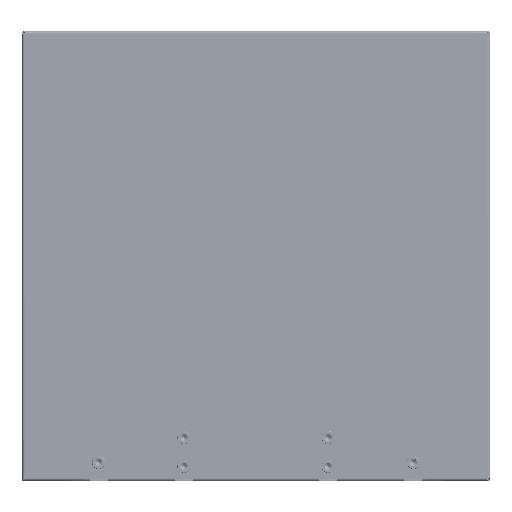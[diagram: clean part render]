
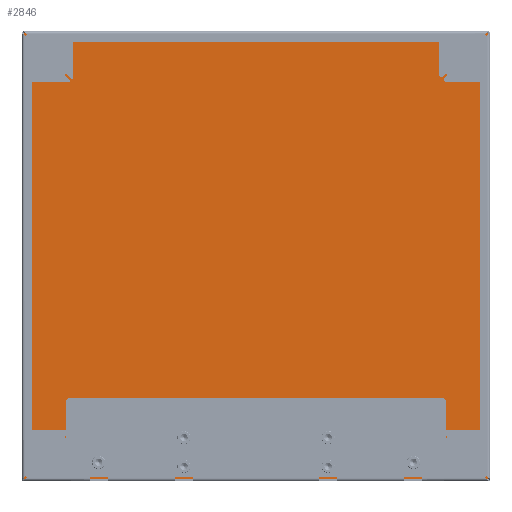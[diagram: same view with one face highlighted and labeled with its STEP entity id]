
A CAD part, front view. The second image highlights one B-rep face of the part: STEP entity #2846.
In plain terms, the highlighted planar face has unit normal (0, -1, 0).
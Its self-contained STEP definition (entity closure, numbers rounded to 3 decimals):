
#5=DIRECTION('',(0.,0.,1.));
#6=VECTOR('',#5,340.);
#7=CARTESIAN_POINT('',(177.,0.,-170.));
#8=LINE('',#7,#6);
#57=CARTESIAN_POINT('',(55.,0.,-160.5));
#58=DIRECTION('',(0.,-1.,0.));
#59=DIRECTION('',(1.,0.,0.));
#60=AXIS2_PLACEMENT_3D('',#57,#58,#59);
#62=CARTESIAN_POINT('',(55.,0.,-160.5));
#63=DIRECTION('',(0.,-1.,0.));
#64=DIRECTION('',(-1.,0.,0.));
#65=AXIS2_PLACEMENT_3D('',#62,#63,#64);
#67=CARTESIAN_POINT('',(120.,0.,-157.5));
#68=DIRECTION('',(0.,-1.,0.));
#69=DIRECTION('',(1.,0.,0.));
#70=AXIS2_PLACEMENT_3D('',#67,#68,#69);
#72=CARTESIAN_POINT('',(120.,0.,-157.5));
#73=DIRECTION('',(0.,-1.,0.));
#74=DIRECTION('',(-1.,0.,0.));
#75=AXIS2_PLACEMENT_3D('',#72,#73,#74);
#77=CARTESIAN_POINT('',(-55.,0.,-160.5));
#78=DIRECTION('',(0.,-1.,0.));
#79=DIRECTION('',(1.,0.,0.));
#80=AXIS2_PLACEMENT_3D('',#77,#78,#79);
#82=CARTESIAN_POINT('',(-55.,0.,-160.5));
#83=DIRECTION('',(0.,-1.,0.));
#84=DIRECTION('',(-1.,0.,0.));
#85=AXIS2_PLACEMENT_3D('',#82,#83,#84);
#87=CARTESIAN_POINT('',(55.,0.,-138.5));
#88=DIRECTION('',(0.,-1.,0.));
#89=DIRECTION('',(1.,0.,0.));
#90=AXIS2_PLACEMENT_3D('',#87,#88,#89);
#92=CARTESIAN_POINT('',(55.,0.,-138.5));
#93=DIRECTION('',(0.,-1.,0.));
#94=DIRECTION('',(-1.,0.,0.));
#95=AXIS2_PLACEMENT_3D('',#92,#93,#94);
#97=CARTESIAN_POINT('',(-55.,0.,-138.5));
#98=DIRECTION('',(0.,-1.,0.));
#99=DIRECTION('',(1.,0.,0.));
#100=AXIS2_PLACEMENT_3D('',#97,#98,#99);
#102=CARTESIAN_POINT('',(-55.,0.,-138.5));
#103=DIRECTION('',(0.,-1.,0.));
#104=DIRECTION('',(-1.,0.,0.));
#105=AXIS2_PLACEMENT_3D('',#102,#103,#104);
#107=CARTESIAN_POINT('',(-120.,0.,-157.5));
#108=DIRECTION('',(0.,-1.,0.));
#109=DIRECTION('',(1.,0.,0.));
#110=AXIS2_PLACEMENT_3D('',#107,#108,#109);
#112=CARTESIAN_POINT('',(-120.,0.,-157.5));
#113=DIRECTION('',(0.,-1.,0.));
#114=DIRECTION('',(-1.,0.,0.));
#115=AXIS2_PLACEMENT_3D('',#112,#113,#114);
#117=DIRECTION('',(0.,0.,-1.));
#118=VECTOR('',#117,340.);
#119=CARTESIAN_POINT('',(-177.,0.,170.));
#120=LINE('',#119,#118);
#181=DIRECTION('',(1.,0.,0.));
#182=VECTOR('',#181,354.);
#183=CARTESIAN_POINT('',(-177.,0.,-170.));
#184=LINE('',#183,#182);
#523=DIRECTION('',(-1.,0.,0.));
#524=VECTOR('',#523,354.);
#525=CARTESIAN_POINT('',(177.,0.,170.));
#526=LINE('',#525,#524);
#2337=CARTESIAN_POINT('',(177.,0.,-170.));
#2338=CARTESIAN_POINT('',(177.,0.,170.));
#2339=VERTEX_POINT('',#2337);
#2340=VERTEX_POINT('',#2338);
#2341=CARTESIAN_POINT('',(-177.,0.,170.));
#2342=CARTESIAN_POINT('',(-177.,0.,-170.));
#2343=VERTEX_POINT('',#2341);
#2344=VERTEX_POINT('',#2342);
#2345=CARTESIAN_POINT('',(58.25,0.,-160.5));
#2346=CARTESIAN_POINT('',(51.75,0.,-160.5));
#2347=VERTEX_POINT('',#2345);
#2348=VERTEX_POINT('',#2346);
#2349=CARTESIAN_POINT('',(123.25,0.,-157.5));
#2350=CARTESIAN_POINT('',(116.75,0.,-157.5));
#2351=VERTEX_POINT('',#2349);
#2352=VERTEX_POINT('',#2350);
#2353=CARTESIAN_POINT('',(-51.75,0.,-160.5));
#2354=CARTESIAN_POINT('',(-58.25,0.,-160.5));
#2355=VERTEX_POINT('',#2353);
#2356=VERTEX_POINT('',#2354);
#2357=CARTESIAN_POINT('',(58.25,0.,-138.5));
#2358=CARTESIAN_POINT('',(51.75,0.,-138.5));
#2359=VERTEX_POINT('',#2357);
#2360=VERTEX_POINT('',#2358);
#2361=CARTESIAN_POINT('',(-51.75,0.,-138.5));
#2362=CARTESIAN_POINT('',(-58.25,0.,-138.5));
#2363=VERTEX_POINT('',#2361);
#2364=VERTEX_POINT('',#2362);
#2365=CARTESIAN_POINT('',(-116.75,0.,-157.5));
#2366=CARTESIAN_POINT('',(-123.25,0.,-157.5));
#2367=VERTEX_POINT('',#2365);
#2368=VERTEX_POINT('',#2366);
#2796=CARTESIAN_POINT('',(0.,0.,0.));
#2797=DIRECTION('',(0.,1.,0.));
#2798=DIRECTION('',(1.,0.,0.));
#2799=AXIS2_PLACEMENT_3D('',#2796,#2797,#2798);
#2800=PLANE('',#2799);
#2802=ORIENTED_EDGE('',*,*,#2801,.F.);
#2804=ORIENTED_EDGE('',*,*,#2803,.F.);
#2805=ORIENTED_EDGE('',*,*,#2786,.F.);
#2807=ORIENTED_EDGE('',*,*,#2806,.F.);
#2808=EDGE_LOOP('',(#2802,#2804,#2805,#2807));
#2809=FACE_OUTER_BOUND('',#2808,.F.);
#2811=ORIENTED_EDGE('',*,*,#2810,.T.);
#2813=ORIENTED_EDGE('',*,*,#2812,.T.);
#2814=EDGE_LOOP('',(#2811,#2813));
#2815=FACE_BOUND('',#2814,.F.);
#2817=ORIENTED_EDGE('',*,*,#2816,.T.);
#2819=ORIENTED_EDGE('',*,*,#2818,.T.);
#2820=EDGE_LOOP('',(#2817,#2819));
#2821=FACE_BOUND('',#2820,.F.);
#2823=ORIENTED_EDGE('',*,*,#2822,.T.);
#2825=ORIENTED_EDGE('',*,*,#2824,.T.);
#2826=EDGE_LOOP('',(#2823,#2825));
#2827=FACE_BOUND('',#2826,.F.);
#2829=ORIENTED_EDGE('',*,*,#2828,.T.);
#2831=ORIENTED_EDGE('',*,*,#2830,.T.);
#2832=EDGE_LOOP('',(#2829,#2831));
#2833=FACE_BOUND('',#2832,.F.);
#2835=ORIENTED_EDGE('',*,*,#2834,.T.);
#2837=ORIENTED_EDGE('',*,*,#2836,.T.);
#2838=EDGE_LOOP('',(#2835,#2837));
#2839=FACE_BOUND('',#2838,.F.);
#2841=ORIENTED_EDGE('',*,*,#2840,.T.);
#2843=ORIENTED_EDGE('',*,*,#2842,.T.);
#2844=EDGE_LOOP('',(#2841,#2843));
#2845=FACE_BOUND('',#2844,.F.);
#2846=ADVANCED_FACE('',(#2809,#2815,#2821,#2827,#2833,#2839,#2845),#2800,.F.);
#61=CIRCLE('',#60,3.25);
#66=CIRCLE('',#65,3.25);
#71=CIRCLE('',#70,3.25);
#76=CIRCLE('',#75,3.25);
#81=CIRCLE('',#80,3.25);
#86=CIRCLE('',#85,3.25);
#91=CIRCLE('',#90,3.25);
#96=CIRCLE('',#95,3.25);
#101=CIRCLE('',#100,3.25);
#106=CIRCLE('',#105,3.25);
#111=CIRCLE('',#110,3.25);
#116=CIRCLE('',#115,3.25);
#2786=EDGE_CURVE('',#2339,#2340,#8,.T.);
#2801=EDGE_CURVE('',#2343,#2344,#120,.T.);
#2803=EDGE_CURVE('',#2340,#2343,#526,.T.);
#2806=EDGE_CURVE('',#2344,#2339,#184,.T.);
#2810=EDGE_CURVE('',#2347,#2348,#61,.T.);
#2812=EDGE_CURVE('',#2348,#2347,#66,.T.);
#2816=EDGE_CURVE('',#2351,#2352,#71,.T.);
#2818=EDGE_CURVE('',#2352,#2351,#76,.T.);
#2822=EDGE_CURVE('',#2355,#2356,#81,.T.);
#2824=EDGE_CURVE('',#2356,#2355,#86,.T.);
#2828=EDGE_CURVE('',#2359,#2360,#91,.T.);
#2830=EDGE_CURVE('',#2360,#2359,#96,.T.);
#2834=EDGE_CURVE('',#2363,#2364,#101,.T.);
#2836=EDGE_CURVE('',#2364,#2363,#106,.T.);
#2840=EDGE_CURVE('',#2367,#2368,#111,.T.);
#2842=EDGE_CURVE('',#2368,#2367,#116,.T.);
